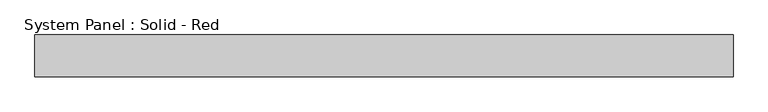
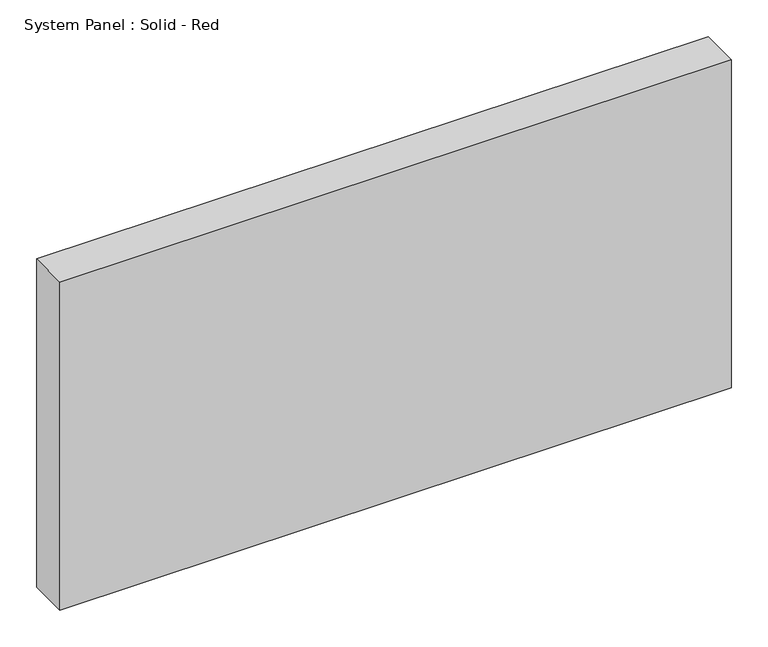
"""IFC4 building model written with IfcOpenShell, lengths in millimetres: plate geometry, System Panel : Solid - Red."""

from ifc_helpers import new_model, si_unit, origin, origin_with_axes, place, context, project, spatial, polyline, outline, extrude, source, transform, mapped, element, save


def system_panel_solid_red_6fdfdeec(model_context):
    return source(origin(), model_context, "Body", "SweptSolid", [
        extrude(outline(polyline([(528.4107143, -19.05), (-528.4107143, -19.05), (-528.4107143, 44.45), (528.4107143, 44.45), (528.4107143, -19.05)])), origin_with_axes(), (0.0, 0.0, 1.0), 546.1),
    ])


if __name__ == "__main__":
    model = new_model("IFC4")
    model_context = context("Model", 3, world=origin())
    ifc_project = project(units=[si_unit("LENGTHUNIT", "METRE", prefix="MILLI")], contexts=[model_context])
    site = spatial("IfcSite", under=ifc_project)
    building = spatial("IfcBuilding", under=site)
    placement = place(None, origin())
    system_panel_solid_red_shape = system_panel_solid_red_6fdfdeec(model_context)
    element("IfcPlate", 1, ObjectType="System Panel : Solid - Red", at=placement, inside=building, context=model_context, shape_type="MappedRepresentation", body=[
        mapped(system_panel_solid_red_shape, transform((0.0, 0.0, 0.0), x_axis=(1.0, 0.0, 0.0), y_axis=(0.0, 1.0, 0.0), z_axis=(0.0, 0.0, 1.0))),
    ])
    save(model, "model.ifc")
